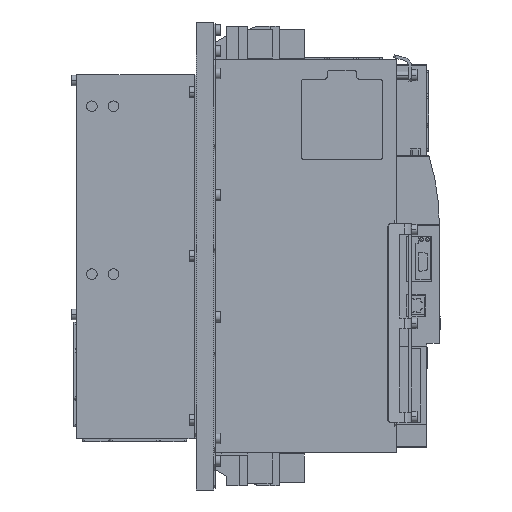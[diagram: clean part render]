
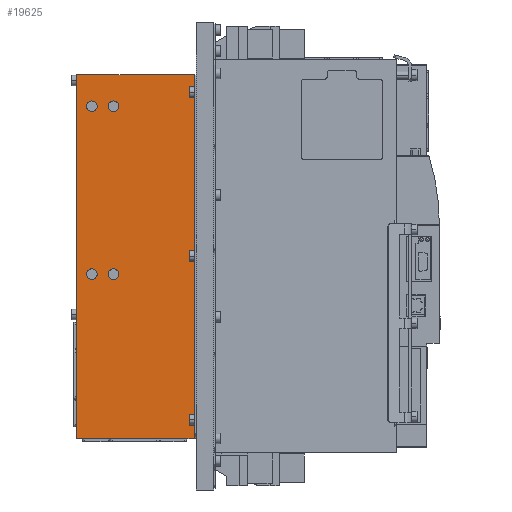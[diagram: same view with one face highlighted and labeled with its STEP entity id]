
A CAD part, left-side view. The second image highlights one B-rep face of the part: STEP entity #19625.
In plain terms, the highlighted planar face has unit normal (-1, 0, 0) as drawn and (1, 0, 0) by its records, which use the part's own axes.
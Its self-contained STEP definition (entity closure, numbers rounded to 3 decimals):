
#2047 = VECTOR ( 'NONE', #33674, 1000. ) ;
#2152 = FACE_BOUND ( 'NONE', #22486, .T. ) ;
#2287 = DIRECTION ( 'NONE',  ( -1., 0., 0. ) ) ;
#3394 = CARTESIAN_POINT ( 'NONE',  ( 83.688, 100.75, 1.26 ) ) ;
#3591 = ORIENTED_EDGE ( 'NONE', *, *, #22525, .T. ) ;
#4064 = DIRECTION ( 'NONE',  ( 0., 1., 0. ) ) ;
#4233 = DIRECTION ( 'NONE',  ( 0., -1., 0. ) ) ;
#4291 = VERTEX_POINT ( 'NONE', #24614 ) ;
#5164 = AXIS2_PLACEMENT_3D ( 'NONE', #11414, #29126, #24763 ) ;
#5594 = VERTEX_POINT ( 'NONE', #3394 ) ;
#6025 = AXIS2_PLACEMENT_3D ( 'NONE', #11435, #29145, #46839 ) ;
#6310 = CIRCLE ( 'NONE', #24897, 4.5 ) ;
#6342 = CIRCLE ( 'NONE', #47122, 4.5 ) ;
#6801 = DIRECTION ( 'NONE',  ( -1., 0., 0. ) ) ;
#7387 = AXIS2_PLACEMENT_3D ( 'NONE', #20236, #42609, #55652 ) ;
#8272 = CIRCLE ( 'NONE', #7387, 4.5 ) ;
#9774 = CARTESIAN_POINT ( 'NONE',  ( 83.688, 100.75, 311.251 ) ) ;
#10044 = CARTESIAN_POINT ( 'NONE',  ( 83.688, 27., 284.251 ) ) ;
#10133 = ORIENTED_EDGE ( 'NONE', *, *, #40717, .T. ) ;
#10611 = AXIS2_PLACEMENT_3D ( 'NONE', #19090, #2287, #15337 ) ;
#10851 = CARTESIAN_POINT ( 'NONE',  ( 83.688, 0., 311.251 ) ) ;
#10923 = AXIS2_PLACEMENT_3D ( 'NONE', #12404, #32051, #14341 ) ;
#11075 = VECTOR ( 'NONE', #53818, 1000. ) ;
#11179 = DIRECTION ( 'NONE',  ( -1., 0., 0. ) ) ;
#11236 = ORIENTED_EDGE ( 'NONE', *, *, #27277, .T. ) ;
#11414 = CARTESIAN_POINT ( 'NONE',  ( 83.688, 13., 284.251 ) ) ;
#11435 = CARTESIAN_POINT ( 'NONE',  ( 83.688, -353.311, 0. ) ) ;
#11648 = CARTESIAN_POINT ( 'NONE',  ( 83.688, 0., 0. ) ) ;
#12036 = CARTESIAN_POINT ( 'NONE',  ( 83.688, 8.5, 140.751 ) ) ;
#12102 = CARTESIAN_POINT ( 'NONE',  ( 83.688, 99.75, 1.26 ) ) ;
#12111 = CARTESIAN_POINT ( 'NONE',  ( 83.688, 17.5, 140.751 ) ) ;
#12347 = EDGE_CURVE ( 'NONE', #54733, #15668, #20762, .T. ) ;
#12349 = VECTOR ( 'NONE', #20162, 1000. ) ;
#12404 = CARTESIAN_POINT ( 'NONE',  ( 83.688, 31.5, 284.251 ) ) ;
#14047 = ORIENTED_EDGE ( 'NONE', *, *, #40021, .F. ) ;
#14341 = DIRECTION ( 'NONE',  ( 0., 1., 0. ) ) ;
#14911 = CARTESIAN_POINT ( 'NONE',  ( 83.688, 27., 140.751 ) ) ;
#15337 = DIRECTION ( 'NONE',  ( 0., 1., 0. ) ) ;
#15481 = CARTESIAN_POINT ( 'NONE',  ( 83.688, 102., 1.26 ) ) ;
#15668 = VERTEX_POINT ( 'NONE', #12111 ) ;
#15944 = CARTESIAN_POINT ( 'NONE',  ( 83.688, -353.311, 311.251 ) ) ;
#16107 = CARTESIAN_POINT ( 'NONE',  ( 83.688, 13., 140.751 ) ) ;
#18932 = CARTESIAN_POINT ( 'NONE',  ( 83.688, 8.5, 284.251 ) ) ;
#19090 = CARTESIAN_POINT ( 'NONE',  ( 83.688, 31.5, 140.751 ) ) ;
#19625 = ADVANCED_FACE ( 'NONE', ( #50610, #33514, #41904, #2152, #51193 ), #33211, .T. ) ;
#19713 = ORIENTED_EDGE ( 'NONE', *, *, #24351, .T. ) ;
#20162 = DIRECTION ( 'NONE',  ( 0., 0., -1. ) ) ;
#20236 = CARTESIAN_POINT ( 'NONE',  ( 83.688, 13., 284.251 ) ) ;
#20657 = VECTOR ( 'NONE', #4233, 1000. ) ;
#20762 = CIRCLE ( 'NONE', #42129, 4.5 ) ;
#20892 = DIRECTION ( 'NONE',  ( 0., 0., -1. ) ) ;
#22486 = EDGE_LOOP ( 'NONE', ( #10133, #49893 ) ) ;
#22525 = EDGE_CURVE ( 'NONE', #36075, #23641, #48907, .T. ) ;
#22640 = VERTEX_POINT ( 'NONE', #15481 ) ;
#23353 = CARTESIAN_POINT ( 'NONE',  ( 83.688, 100.75, 311.251 ) ) ;
#23641 = VERTEX_POINT ( 'NONE', #10044 ) ;
#24230 = DIRECTION ( 'NONE',  ( 0., 1., 0. ) ) ;
#24351 = EDGE_CURVE ( 'NONE', #15668, #54733, #6310, .T. ) ;
#24614 = CARTESIAN_POINT ( 'NONE',  ( 83.688, 17.5, 284.251 ) ) ;
#24763 = DIRECTION ( 'NONE',  ( 0., 1., 0. ) ) ;
#24897 = AXIS2_PLACEMENT_3D ( 'NONE', #43826, #6801, #4064 ) ;
#27277 = EDGE_CURVE ( 'NONE', #29321, #30081, #38903, .T. ) ;
#27829 = EDGE_CURVE ( 'NONE', #30081, #38310, #31854, .T. ) ;
#28160 = EDGE_CURVE ( 'NONE', #23641, #36075, #54591, .T. ) ;
#28344 = EDGE_CURVE ( 'NONE', #30439, #5594, #50044, .T. ) ;
#28577 = CARTESIAN_POINT ( 'NONE',  ( 83.688, 31.5, 140.751 ) ) ;
#28897 = DIRECTION ( 'NONE',  ( 0., 1., 0. ) ) ;
#29126 = DIRECTION ( 'NONE',  ( -1., 0., 0. ) ) ;
#29145 = DIRECTION ( 'NONE',  ( 1., 0., 0. ) ) ;
#29221 = CARTESIAN_POINT ( 'NONE',  ( 83.688, 31.5, 284.251 ) ) ;
#29321 = VERTEX_POINT ( 'NONE', #10851 ) ;
#29387 = ORIENTED_EDGE ( 'NONE', *, *, #28344, .F. ) ;
#29607 = AXIS2_PLACEMENT_3D ( 'NONE', #29221, #56155, #43104 ) ;
#30081 = VERTEX_POINT ( 'NONE', #51065 ) ;
#30110 = ORIENTED_EDGE ( 'NONE', *, *, #12347, .T. ) ;
#30439 = VERTEX_POINT ( 'NONE', #9774 ) ;
#31854 = LINE ( 'NONE', #39992, #55519 ) ;
#31931 = ORIENTED_EDGE ( 'NONE', *, *, #32318, .F. ) ;
#32051 = DIRECTION ( 'NONE',  ( -1., 0., 0. ) ) ;
#32318 = EDGE_CURVE ( 'NONE', #29321, #30439, #55689, .T. ) ;
#33211 = PLANE ( 'NONE',  #6025 ) ;
#33514 = FACE_BOUND ( 'NONE', #42294, .T. ) ;
#33563 = LINE ( 'NONE', #52361, #12349 ) ;
#33674 = DIRECTION ( 'NONE',  ( 0., 1., 0. ) ) ;
#35104 = EDGE_CURVE ( 'NONE', #22640, #5594, #56485, .T. ) ;
#36075 = VERTEX_POINT ( 'NONE', #41650 ) ;
#36512 = VERTEX_POINT ( 'NONE', #18932 ) ;
#36623 = EDGE_LOOP ( 'NONE', ( #14047, #42345, #29387, #31931, #11236, #37827 ) ) ;
#37716 = ORIENTED_EDGE ( 'NONE', *, *, #28160, .T. ) ;
#37827 = ORIENTED_EDGE ( 'NONE', *, *, #27829, .T. ) ;
#37865 = EDGE_CURVE ( 'NONE', #4291, #36512, #55187, .T. ) ;
#38310 = VERTEX_POINT ( 'NONE', #51110 ) ;
#38903 = LINE ( 'NONE', #11648, #43822 ) ;
#39992 = CARTESIAN_POINT ( 'NONE',  ( 83.688, -353.311, 0. ) ) ;
#40021 = EDGE_CURVE ( 'NONE', #22640, #38310, #33563, .T. ) ;
#40262 = CIRCLE ( 'NONE', #10611, 4.5 ) ;
#40717 = EDGE_CURVE ( 'NONE', #41358, #53051, #40262, .T. ) ;
#41358 = VERTEX_POINT ( 'NONE', #44826 ) ;
#41650 = CARTESIAN_POINT ( 'NONE',  ( 83.688, 36., 284.251 ) ) ;
#41904 = FACE_BOUND ( 'NONE', #46491, .T. ) ;
#42129 = AXIS2_PLACEMENT_3D ( 'NONE', #16107, #11179, #28897 ) ;
#42294 = EDGE_LOOP ( 'NONE', ( #3591, #37716 ) ) ;
#42345 = ORIENTED_EDGE ( 'NONE', *, *, #35104, .T. ) ;
#42609 = DIRECTION ( 'NONE',  ( -1., 0., 0. ) ) ;
#43104 = DIRECTION ( 'NONE',  ( 0., 1., 0. ) ) ;
#43822 = VECTOR ( 'NONE', #20892, 1000. ) ;
#43826 = CARTESIAN_POINT ( 'NONE',  ( 83.688, 13., 140.751 ) ) ;
#44512 = ORIENTED_EDGE ( 'NONE', *, *, #37865, .T. ) ;
#44826 = CARTESIAN_POINT ( 'NONE',  ( 83.688, 36., 140.751 ) ) ;
#44905 = DIRECTION ( 'NONE',  ( 0., 1., 0. ) ) ;
#46271 = DIRECTION ( 'NONE',  ( -1., 0., 0. ) ) ;
#46491 = EDGE_LOOP ( 'NONE', ( #44512, #47908 ) ) ;
#46769 = EDGE_CURVE ( 'NONE', #53051, #41358, #6342, .T. ) ;
#46839 = DIRECTION ( 'NONE',  ( 0., 1., 0. ) ) ;
#47122 = AXIS2_PLACEMENT_3D ( 'NONE', #28577, #46271, #24230 ) ;
#47908 = ORIENTED_EDGE ( 'NONE', *, *, #56027, .T. ) ;
#48907 = CIRCLE ( 'NONE', #10923, 4.5 ) ;
#49893 = ORIENTED_EDGE ( 'NONE', *, *, #46769, .T. ) ;
#50044 = LINE ( 'NONE', #23353, #11075 ) ;
#50610 = FACE_OUTER_BOUND ( 'NONE', #36623, .T. ) ;
#51065 = CARTESIAN_POINT ( 'NONE',  ( 83.688, 0., 0. ) ) ;
#51110 = CARTESIAN_POINT ( 'NONE',  ( 83.688, 102., 0. ) ) ;
#51193 = FACE_BOUND ( 'NONE', #55463, .T. ) ;
#52361 = CARTESIAN_POINT ( 'NONE',  ( 83.688, 102., 0. ) ) ;
#53051 = VERTEX_POINT ( 'NONE', #14911 ) ;
#53818 = DIRECTION ( 'NONE',  ( 0., 0., -1. ) ) ;
#54591 = CIRCLE ( 'NONE', #29607, 4.5 ) ;
#54733 = VERTEX_POINT ( 'NONE', #12036 ) ;
#55187 = CIRCLE ( 'NONE', #5164, 4.5 ) ;
#55463 = EDGE_LOOP ( 'NONE', ( #19713, #30110 ) ) ;
#55519 = VECTOR ( 'NONE', #44905, 1000. ) ;
#55652 = DIRECTION ( 'NONE',  ( 0., 1., 0. ) ) ;
#55689 = LINE ( 'NONE', #15944, #2047 ) ;
#56027 = EDGE_CURVE ( 'NONE', #36512, #4291, #8272, .T. ) ;
#56155 = DIRECTION ( 'NONE',  ( -1., 0., 0. ) ) ;
#56485 = LINE ( 'NONE', #12102, #20657 ) ;
